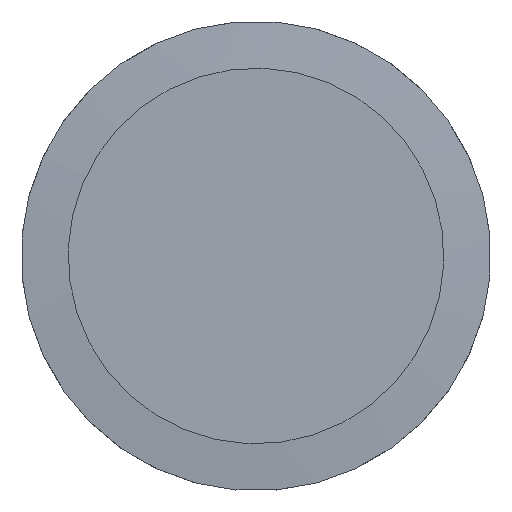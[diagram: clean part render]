
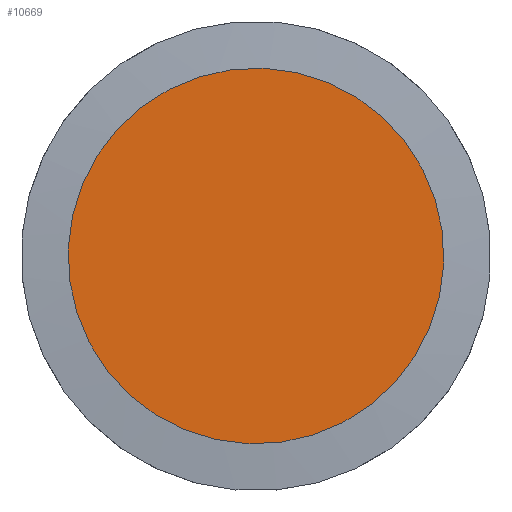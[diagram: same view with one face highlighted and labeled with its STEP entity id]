
A CAD part, left-side view. The second image highlights one B-rep face of the part: STEP entity #10669.
In plain terms, the highlighted planar face has unit normal (-1, 0, 0).
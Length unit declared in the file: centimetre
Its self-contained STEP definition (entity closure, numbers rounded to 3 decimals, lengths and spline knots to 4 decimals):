
#2354=PLANE('',#11683);
#3159=FACE_OUTER_BOUND('',#3727,.T.);
#3727=EDGE_LOOP('',(#9740));
#4218=CIRCLE('',#11684,0.8);
#5176=VERTEX_POINT('',#18105);
#6696=EDGE_CURVE('',#5176,#5176,#4218,.T.);
#9740=ORIENTED_EDGE('',*,*,#6696,.F.);
#10669=ADVANCED_FACE('',(#3159),#2354,.F.);
#11683=AXIS2_PLACEMENT_3D('',#18104,#14703,#14704);
#11684=AXIS2_PLACEMENT_3D('',#18106,#14705,#14706);
#14703=DIRECTION('center_axis',(1.,0.,0.));
#14704=DIRECTION('ref_axis',(0.,-0.043,0.999));
#14705=DIRECTION('center_axis',(1.,0.,0.));
#14706=DIRECTION('ref_axis',(0.,-0.043,0.999));
#18104=CARTESIAN_POINT('Origin',(-31.31,-62.05,7.5));
#18105=CARTESIAN_POINT('',(-31.31,-62.0158,6.7007));
#18106=CARTESIAN_POINT('Origin',(-31.31,-62.05,7.5));
